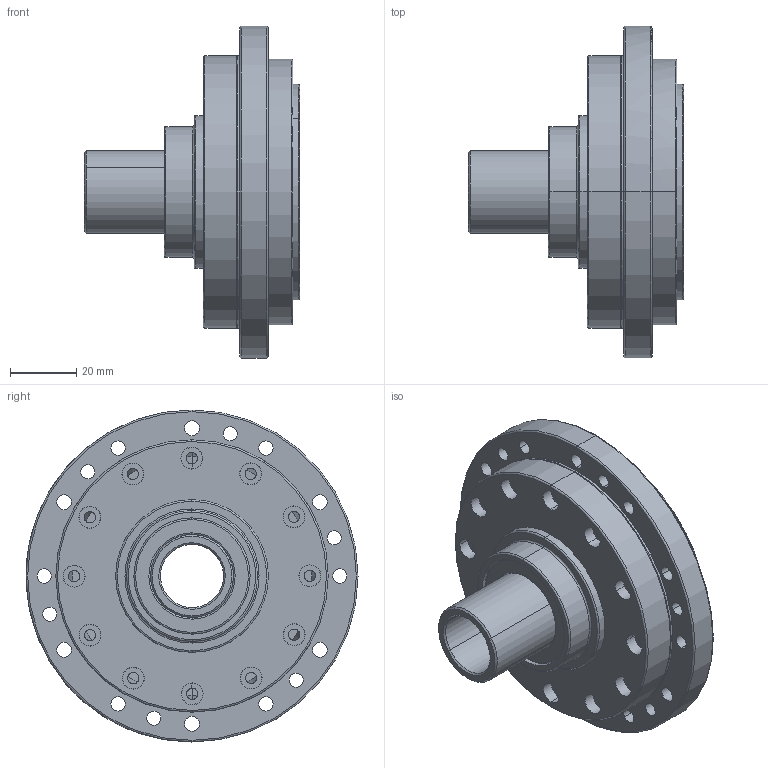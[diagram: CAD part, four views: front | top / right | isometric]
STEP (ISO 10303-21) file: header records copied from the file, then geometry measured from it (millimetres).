
FILE_DESCRIPTION (( 'STEP AP203' ), '1' );
FILE_NAME ('20 (100).STEP', '2025-06-26T00:40:47', ( '' ), ( '' ), 'SwSTEP 2.0', 'SolidWorks 2024', '' );
FILE_SCHEMA (( 'CONFIG_CONTROL_DESIGN' ));
Length unit declared in the file: millimetre
Products named in the file (1): 20  (100)
Bounding box: 64.8 x 100 x 100 mm (x, y, z)
Volume: 96454.1 mm3; surface area: 64385.8 mm2
Topology: 53 solids, 53 shells, 769 faces, 1629 edges, 1004 vertices
Faces by surface type: cylinder 301, torus 208, plane 147, cone 113
Entity records: 23084 total; most frequent: CARTESIAN_POINT 5793, DIRECTION 4017, ORIENTED_EDGE 3258, AXIS2_PLACEMENT_3D 1800, EDGE_CURVE 1629, CIRCLE 1030, VERTEX_POINT 1004, EDGE_LOOP 907
